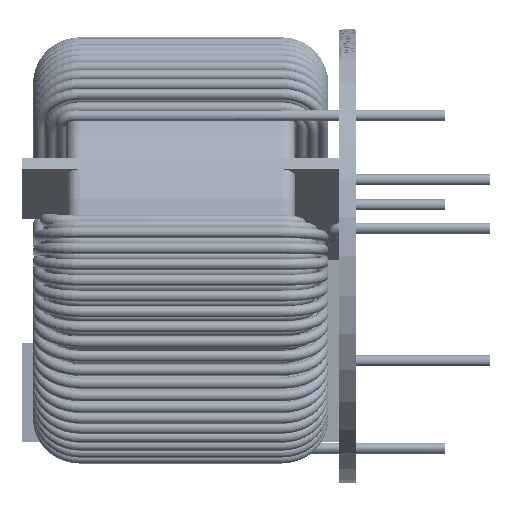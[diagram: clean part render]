
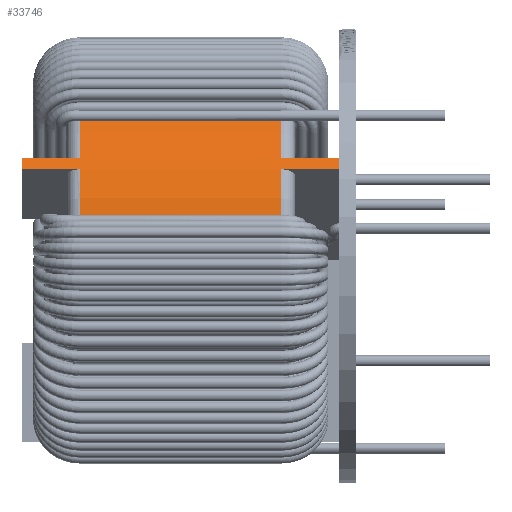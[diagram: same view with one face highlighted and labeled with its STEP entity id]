
A CAD part, left-side view. The second image highlights one B-rep face of the part: STEP entity #33746.
In plain terms, the highlighted cylindrical face has radius 27.3 mm (diameter 54.6 mm), a partial arc.
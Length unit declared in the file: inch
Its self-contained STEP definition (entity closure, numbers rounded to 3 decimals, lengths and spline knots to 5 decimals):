
#133 = VERTEX_POINT ( 'NONE', #133771 ) ;
#2302 = DIRECTION ( 'NONE',  ( 0., -1., 0. ) ) ;
#2470 = CIRCLE ( 'NONE', #137285, 1.0748 ) ;
#3483 = ORIENTED_EDGE ( 'NONE', *, *, #67346, .F. ) ;
#6721 = ORIENTED_EDGE ( 'NONE', *, *, #101820, .T. ) ;
#7994 = VECTOR ( 'NONE', #105528, 39.37008 ) ;
#8881 = ORIENTED_EDGE ( 'NONE', *, *, #57761, .T. ) ;
#8927 = CARTESIAN_POINT ( 'NONE',  ( 0., 1.57874, -1.0748 ) ) ;
#9772 = VERTEX_POINT ( 'NONE', #90317 ) ;
#9824 = VERTEX_POINT ( 'NONE', #140406 ) ;
#10537 = CARTESIAN_POINT ( 'NONE',  ( -0.94987, -0.25591, 0.50295 ) ) ;
#13529 = ORIENTED_EDGE ( 'NONE', *, *, #121609, .T. ) ;
#14154 = VERTEX_POINT ( 'NONE', #101854 ) ;
#14773 = CARTESIAN_POINT ( 'NONE',  ( -0.03937, 1.57874, -1.07408 ) ) ;
#16563 = DIRECTION ( 'NONE',  ( 0., -1., 0. ) ) ;
#17662 = CARTESIAN_POINT ( 'NONE',  ( 0., 1.32283, 1.0748 ) ) ;
#17675 = FACE_OUTER_BOUND ( 'NONE', #73850, .T. ) ;
#18375 = LINE ( 'NONE', #29372, #47406 ) ;
#18669 = CARTESIAN_POINT ( 'NONE',  ( -0.9105, -0.25591, 0.57114 ) ) ;
#19128 = VERTEX_POINT ( 'NONE', #8927 ) ;
#19349 = LINE ( 'NONE', #38057, #137321 ) ;
#20192 = LINE ( 'NONE', #147686, #139907 ) ;
#20434 = ORIENTED_EDGE ( 'NONE', *, *, #67176, .T. ) ;
#22623 = CARTESIAN_POINT ( 'NONE',  ( -0.9105, 1.57874, 0.57114 ) ) ;
#24881 = DIRECTION ( 'NONE',  ( 0., -1., 0. ) ) ;
#24887 = VERTEX_POINT ( 'NONE', #141808 ) ;
#25372 = ORIENTED_EDGE ( 'NONE', *, *, #78029, .T. ) ;
#25636 = ORIENTED_EDGE ( 'NONE', *, *, #58055, .T. ) ;
#28923 = DIRECTION ( 'NONE',  ( 0., 1., 0. ) ) ;
#29372 = CARTESIAN_POINT ( 'NONE',  ( -0.9105, 1.57874, 0.57114 ) ) ;
#29627 = DIRECTION ( 'NONE',  ( 0., -1., 0. ) ) ;
#30282 = EDGE_CURVE ( 'NONE', #55281, #14154, #127190, .T. ) ;
#31214 = ORIENTED_EDGE ( 'NONE', *, *, #137753, .T. ) ;
#31994 = AXIS2_PLACEMENT_3D ( 'NONE', #52529, #16563, #51488 ) ;
#32619 = VECTOR ( 'NONE', #94912, 39.37008 ) ;
#33746 = ADVANCED_FACE ( 'NONE', ( #17675 ), #81090, .T. ) ;
#34939 = ORIENTED_EDGE ( 'NONE', *, *, #71769, .F. ) ;
#38057 = CARTESIAN_POINT ( 'NONE',  ( 0., 1.32283, -1.0748 ) ) ;
#38692 = VECTOR ( 'NONE', #2302, 39.37008 ) ;
#38847 = LINE ( 'NONE', #60290, #7994 ) ;
#39037 = CIRCLE ( 'NONE', #98920, 1.0748 ) ;
#39755 = AXIS2_PLACEMENT_3D ( 'NONE', #90953, #114257, #125911 ) ;
#40838 = CIRCLE ( 'NONE', #39755, 1.0748 ) ;
#43538 = CARTESIAN_POINT ( 'NONE',  ( -0.9105, 1.24409, 0.57114 ) ) ;
#47406 = VECTOR ( 'NONE', #110036, 39.37008 ) ;
#49181 = DIRECTION ( 'NONE',  ( 0., -1., 0. ) ) ;
#49673 = CARTESIAN_POINT ( 'NONE',  ( -0.03937, 1.57874, -1.07408 ) ) ;
#50925 = CARTESIAN_POINT ( 'NONE',  ( -0.03937, 0.07874, -1.07408 ) ) ;
#51488 = DIRECTION ( 'NONE',  ( 0., 0., 1. ) ) ;
#51915 = AXIS2_PLACEMENT_3D ( 'NONE', #78532, #114530, #103417 ) ;
#52479 = EDGE_CURVE ( 'NONE', #113426, #133, #136140, .T. ) ;
#52529 = CARTESIAN_POINT ( 'NONE',  ( 0., 1.24409, 0. ) ) ;
#55281 = VERTEX_POINT ( 'NONE', #149056 ) ;
#57761 = EDGE_CURVE ( 'NONE', #24887, #133, #131617, .T. ) ;
#58055 = EDGE_CURVE ( 'NONE', #9772, #142044, #40838, .T. ) ;
#60290 = CARTESIAN_POINT ( 'NONE',  ( -0.94987, 1.57874, 0.50295 ) ) ;
#60943 = DIRECTION ( 'NONE',  ( 0., -1., 0. ) ) ;
#61294 = CARTESIAN_POINT ( 'NONE',  ( -0.03937, -0.25591, -1.07408 ) ) ;
#62836 = ORIENTED_EDGE ( 'NONE', *, *, #82082, .F. ) ;
#64520 = CARTESIAN_POINT ( 'NONE',  ( -0.9105, 0.07874, 0.57114 ) ) ;
#65200 = AXIS2_PLACEMENT_3D ( 'NONE', #116161, #140941, #117152 ) ;
#66440 = CARTESIAN_POINT ( 'NONE',  ( -0.94987, 0.07874, 0.50295 ) ) ;
#67176 = EDGE_CURVE ( 'NONE', #123342, #78115, #2470, .T. ) ;
#67346 = EDGE_CURVE ( 'NONE', #14154, #140644, #80439, .T. ) ;
#67727 = DIRECTION ( 'NONE',  ( 0., 1., 0. ) ) ;
#68929 = EDGE_CURVE ( 'NONE', #112178, #122911, #18375, .T. ) ;
#70809 = VECTOR ( 'NONE', #49181, 39.37008 ) ;
#71769 = EDGE_CURVE ( 'NONE', #135930, #9824, #126232, .T. ) ;
#73683 = AXIS2_PLACEMENT_3D ( 'NONE', #117760, #60943, #145409 ) ;
#73850 = EDGE_LOOP ( 'NONE', ( #34939, #6721, #3483, #91155, #112650, #8881, #124554, #62836, #25372, #25636, #140736, #20434, #13529, #110829, #104898, #31214 ) ) ;
#75897 = CIRCLE ( 'NONE', #124616, 1.0748 ) ;
#76842 = VERTEX_POINT ( 'NONE', #10537 ) ;
#77436 = CARTESIAN_POINT ( 'NONE',  ( 0., 0.07874, 0. ) ) ;
#77555 = DIRECTION ( 'NONE',  ( 0., 0., 1. ) ) ;
#77589 = DIRECTION ( 'NONE',  ( 0., 0., 1. ) ) ;
#77745 = DIRECTION ( 'NONE',  ( 0., 0., 1. ) ) ;
#78029 = EDGE_CURVE ( 'NONE', #19128, #9772, #19349, .T. ) ;
#78115 = VERTEX_POINT ( 'NONE', #66440 ) ;
#78532 = CARTESIAN_POINT ( 'NONE',  ( 0., -0.25591, 0. ) ) ;
#79421 = DIRECTION ( 'NONE',  ( 0., 0., 1. ) ) ;
#80439 = LINE ( 'NONE', #22623, #38692 ) ;
#81090 = CYLINDRICAL_SURFACE ( 'NONE', #73683, 1.0748 ) ;
#82082 = EDGE_CURVE ( 'NONE', #19128, #113426, #133815, .T. ) ;
#87078 = LINE ( 'NONE', #14773, #32619 ) ;
#88923 = CARTESIAN_POINT ( 'NONE',  ( 0., 1.24409, 0. ) ) ;
#89261 = DIRECTION ( 'NONE',  ( 0., 1., 0. ) ) ;
#90317 = CARTESIAN_POINT ( 'NONE',  ( 0., -0.25591, -1.0748 ) ) ;
#90953 = CARTESIAN_POINT ( 'NONE',  ( 0., -0.25591, 0. ) ) ;
#91155 = ORIENTED_EDGE ( 'NONE', *, *, #30282, .F. ) ;
#94912 = DIRECTION ( 'NONE',  ( 0., -1., 0. ) ) ;
#98483 = EDGE_CURVE ( 'NONE', #123342, #142044, #87078, .T. ) ;
#98920 = AXIS2_PLACEMENT_3D ( 'NONE', #88923, #29627, #77745 ) ;
#101820 = EDGE_CURVE ( 'NONE', #135930, #140644, #39037, .T. ) ;
#101854 = CARTESIAN_POINT ( 'NONE',  ( -0.9105, 1.57874, 0.57114 ) ) ;
#103417 = DIRECTION ( 'NONE',  ( 0., 0., 1. ) ) ;
#104898 = ORIENTED_EDGE ( 'NONE', *, *, #68929, .F. ) ;
#105528 = DIRECTION ( 'NONE',  ( 0., -1., 0. ) ) ;
#106161 = AXIS2_PLACEMENT_3D ( 'NONE', #135394, #89261, #77589 ) ;
#110036 = DIRECTION ( 'NONE',  ( 0., -1., 0. ) ) ;
#110829 = ORIENTED_EDGE ( 'NONE', *, *, #124679, .T. ) ;
#112178 = VERTEX_POINT ( 'NONE', #64520 ) ;
#112650 = ORIENTED_EDGE ( 'NONE', *, *, #141938, .T. ) ;
#113426 = VERTEX_POINT ( 'NONE', #137141 ) ;
#113793 = CIRCLE ( 'NONE', #51915, 1.0748 ) ;
#114257 = DIRECTION ( 'NONE',  ( 0., 1., 0. ) ) ;
#114530 = DIRECTION ( 'NONE',  ( 0., 1., 0. ) ) ;
#115330 = CARTESIAN_POINT ( 'NONE',  ( 0., 1.24409, 1.0748 ) ) ;
#116161 = CARTESIAN_POINT ( 'NONE',  ( 0., 1.57874, 0. ) ) ;
#117152 = DIRECTION ( 'NONE',  ( 0., 0., 1. ) ) ;
#117760 = CARTESIAN_POINT ( 'NONE',  ( 0., 1.32283, 0. ) ) ;
#121609 = EDGE_CURVE ( 'NONE', #78115, #76842, #20192, .T. ) ;
#122911 = VERTEX_POINT ( 'NONE', #18669 ) ;
#123342 = VERTEX_POINT ( 'NONE', #50925 ) ;
#124554 = ORIENTED_EDGE ( 'NONE', *, *, #52479, .F. ) ;
#124616 = AXIS2_PLACEMENT_3D ( 'NONE', #147008, #28923, #77555 ) ;
#124679 = EDGE_CURVE ( 'NONE', #76842, #122911, #113793, .T. ) ;
#125911 = DIRECTION ( 'NONE',  ( 0., 0., 1. ) ) ;
#126232 = LINE ( 'NONE', #17662, #146171 ) ;
#127190 = CIRCLE ( 'NONE', #106161, 1.0748 ) ;
#131617 = CIRCLE ( 'NONE', #31994, 1.0748 ) ;
#133771 = CARTESIAN_POINT ( 'NONE',  ( -0.03937, 1.24409, -1.07408 ) ) ;
#133815 = CIRCLE ( 'NONE', #65200, 1.0748 ) ;
#135394 = CARTESIAN_POINT ( 'NONE',  ( 0., 1.57874, 0. ) ) ;
#135930 = VERTEX_POINT ( 'NONE', #115330 ) ;
#136140 = LINE ( 'NONE', #49673, #70809 ) ;
#136535 = DIRECTION ( 'NONE',  ( 0., -1., 0. ) ) ;
#137141 = CARTESIAN_POINT ( 'NONE',  ( -0.03937, 1.57874, -1.07408 ) ) ;
#137285 = AXIS2_PLACEMENT_3D ( 'NONE', #77436, #67727, #79421 ) ;
#137321 = VECTOR ( 'NONE', #24881, 39.37008 ) ;
#137753 = EDGE_CURVE ( 'NONE', #112178, #9824, #75897, .T. ) ;
#139907 = VECTOR ( 'NONE', #136535, 39.37008 ) ;
#140406 = CARTESIAN_POINT ( 'NONE',  ( 0., 0.07874, 1.0748 ) ) ;
#140644 = VERTEX_POINT ( 'NONE', #43538 ) ;
#140736 = ORIENTED_EDGE ( 'NONE', *, *, #98483, .F. ) ;
#140941 = DIRECTION ( 'NONE',  ( 0., 1., 0. ) ) ;
#141808 = CARTESIAN_POINT ( 'NONE',  ( -0.94987, 1.24409, 0.50295 ) ) ;
#141938 = EDGE_CURVE ( 'NONE', #55281, #24887, #38847, .T. ) ;
#142044 = VERTEX_POINT ( 'NONE', #61294 ) ;
#145403 = DIRECTION ( 'NONE',  ( 0., -1., 0. ) ) ;
#145409 = DIRECTION ( 'NONE',  ( 0., 0., -1. ) ) ;
#146171 = VECTOR ( 'NONE', #145403, 39.37008 ) ;
#147008 = CARTESIAN_POINT ( 'NONE',  ( 0., 0.07874, 0. ) ) ;
#147686 = CARTESIAN_POINT ( 'NONE',  ( -0.94987, 1.57874, 0.50295 ) ) ;
#149056 = CARTESIAN_POINT ( 'NONE',  ( -0.94987, 1.57874, 0.50295 ) ) ;
